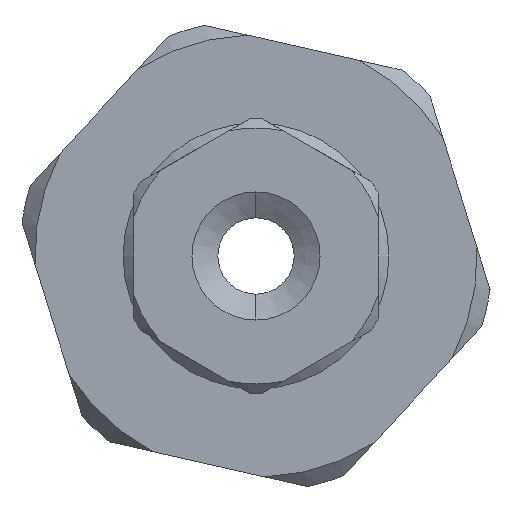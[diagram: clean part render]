
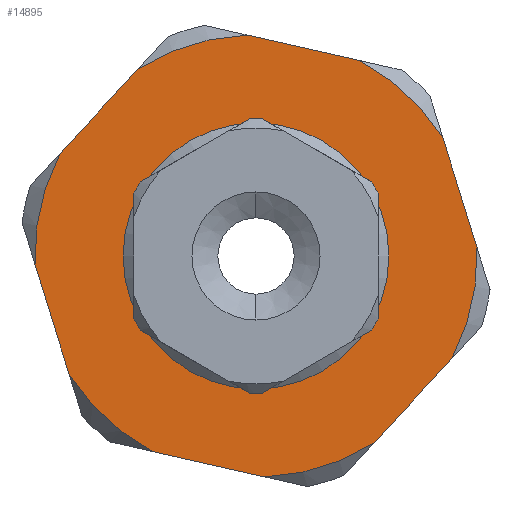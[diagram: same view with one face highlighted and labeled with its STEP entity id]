
A CAD part, front view. The second image highlights one B-rep face of the part: STEP entity #14895.
In plain terms, the highlighted planar face has unit normal (0, -1, 0).
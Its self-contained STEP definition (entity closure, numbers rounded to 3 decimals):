
#7 = EDGE_CURVE ( 'NONE', #3101, #10937, #11957, .T. ) ;
#39 = ORIENTED_EDGE ( 'NONE', *, *, #14182, .F. ) ;
#60 = EDGE_CURVE ( 'NONE', #686, #11112, #2078, .T. ) ;
#198 = EDGE_CURVE ( 'NONE', #1966, #5358, #2064, .T. ) ;
#204 = CARTESIAN_POINT ( 'NONE',  ( -5.706, -0.676, 21. ) ) ;
#257 = CARTESIAN_POINT ( 'NONE',  ( -2.317, -0.676, 27.41 ) ) ;
#348 = VERTEX_POINT ( 'NONE', #14284 ) ;
#376 = DIRECTION ( 'NONE',  ( 0.221, 0., 0.975 ) ) ;
#590 = CARTESIAN_POINT ( 'NONE',  ( -5.706, -0.676, 21. ) ) ;
#686 = VERTEX_POINT ( 'NONE', #9144 ) ;
#845 = FACE_OUTER_BOUND ( 'NONE', #4631, .T. ) ;
#969 = VERTEX_POINT ( 'NONE', #1822 ) ;
#1212 = CARTESIAN_POINT ( 'NONE',  ( -14.409, -0.676, 15.795 ) ) ;
#1413 = DIRECTION ( 'NONE',  ( 0.221, 0., 0.975 ) ) ;
#1548 = DIRECTION ( 'NONE',  ( 0.221, 0., 0.975 ) ) ;
#1611 = CARTESIAN_POINT ( 'NONE',  ( -5.706, -0.676, 21. ) ) ;
#1701 = CARTESIAN_POINT ( 'NONE',  ( -5.412, -0.676, 13.756 ) ) ;
#1793 = DIRECTION ( 'NONE',  ( 0.221, 0., 0.975 ) ) ;
#1822 = CARTESIAN_POINT ( 'NONE',  ( -9.094, -0.676, 14.59 ) ) ;
#1945 = EDGE_CURVE ( 'NONE', #8908, #3238, #14006, .T. ) ;
#1966 = VERTEX_POINT ( 'NONE', #257 ) ;
#2064 = CIRCLE ( 'NONE', #5557, 7.25 ) ;
#2078 = CIRCLE ( 'NONE', #11710, 3.5 ) ;
#2127 = DIRECTION ( 'NONE',  ( 0., 1., 0. ) ) ;
#2163 = AXIS2_PLACEMENT_3D ( 'NONE', #204, #8567, #1413 ) ;
#2405 = DIRECTION ( 'NONE',  ( 0.221, 0., 0.975 ) ) ;
#2710 = CARTESIAN_POINT ( 'NONE',  ( -9.562, -0.676, 27.139 ) ) ;
#2753 = CARTESIAN_POINT ( 'NONE',  ( -5.706, -0.676, 21. ) ) ;
#2791 = VECTOR ( 'NONE', #5745, 1000. ) ;
#2811 = DIRECTION ( 'NONE',  ( 0.221, 0., 0.975 ) ) ;
#3095 = VERTEX_POINT ( 'NONE', #7138 ) ;
#3101 = VERTEX_POINT ( 'NONE', #3514 ) ;
#3131 = DIRECTION ( 'NONE',  ( -0.679, 0., -0.734 ) ) ;
#3238 = VERTEX_POINT ( 'NONE', #5050 ) ;
#3277 = EDGE_CURVE ( 'NONE', #10937, #4271, #13218, .T. ) ;
#3386 = LINE ( 'NONE', #8779, #9708 ) ;
#3514 = CARTESIAN_POINT ( 'NONE',  ( 0.715, -0.676, 17.632 ) ) ;
#3690 = LINE ( 'NONE', #13597, #6889 ) ;
#3805 = AXIS2_PLACEMENT_3D ( 'NONE', #590, #8946, #1793 ) ;
#3919 = CIRCLE ( 'NONE', #10405, 7.25 ) ;
#3950 = CARTESIAN_POINT ( 'NONE',  ( -11.833, -0.676, 17.124 ) ) ;
#4271 = VERTEX_POINT ( 'NONE', #1701 ) ;
#4397 = FACE_BOUND ( 'NONE', #13624, .T. ) ;
#4605 = ORIENTED_EDGE ( 'NONE', *, *, #10921, .F. ) ;
#4631 = EDGE_LOOP ( 'NONE', ( #10716, #5145, #15204, #5208, #4605, #9981, #12088, #5395, #10634, #6940, #11120, #39 ) ) ;
#4678 = CARTESIAN_POINT ( 'NONE',  ( -13.377, -0.676, 22.104 ) ) ;
#4766 = AXIS2_PLACEMENT_3D ( 'NONE', #12110, #5010, #13301 ) ;
#5010 = DIRECTION ( 'NONE',  ( 0., 1., 0. ) ) ;
#5050 = CARTESIAN_POINT ( 'NONE',  ( -12.126, -0.676, 24.368 ) ) ;
#5145 = ORIENTED_EDGE ( 'NONE', *, *, #11964, .F. ) ;
#5208 = ORIENTED_EDGE ( 'NONE', *, *, #7, .F. ) ;
#5290 = DIRECTION ( 'NONE',  ( 0.296, 0., -0.955 ) ) ;
#5358 = VERTEX_POINT ( 'NONE', #9499 ) ;
#5395 = ORIENTED_EDGE ( 'NONE', *, *, #6626, .F. ) ;
#5557 = AXIS2_PLACEMENT_3D ( 'NONE', #12367, #14774, #8891 ) ;
#5651 = VECTOR ( 'NONE', #3131, 1000. ) ;
#5688 = CARTESIAN_POINT ( 'NONE',  ( -4.158, -0.676, 27.827 ) ) ;
#5745 = DIRECTION ( 'NONE',  ( -0.975, 0., 0.221 ) ) ;
#5891 = DIRECTION ( 'NONE',  ( -0.296, 0., 0.955 ) ) ;
#6440 = CIRCLE ( 'NONE', #12996, 7.25 ) ;
#6626 = EDGE_CURVE ( 'NONE', #348, #1966, #11323, .T. ) ;
#6728 = EDGE_CURVE ( 'NONE', #969, #9884, #8381, .T. ) ;
#6889 = VECTOR ( 'NONE', #5290, 1000. ) ;
#6940 = ORIENTED_EDGE ( 'NONE', *, *, #14447, .F. ) ;
#7138 = CARTESIAN_POINT ( 'NONE',  ( 1.539, -0.676, 21.27 ) ) ;
#7562 = DIRECTION ( 'NONE',  ( 0., 1., 0. ) ) ;
#7728 = LINE ( 'NONE', #4678, #10468 ) ;
#8039 = CARTESIAN_POINT ( 'NONE',  ( -12.951, -0.676, 20.73 ) ) ;
#8316 = PLANE ( 'NONE',  #11576 ) ;
#8381 = CIRCLE ( 'NONE', #4766, 7.25 ) ;
#8567 = DIRECTION ( 'NONE',  ( 0., 1., 0. ) ) ;
#8689 = DIRECTION ( 'NONE',  ( 0., -1., 0. ) ) ;
#8707 = VERTEX_POINT ( 'NONE', #2710 ) ;
#8779 = CARTESIAN_POINT ( 'NONE',  ( -8.585, -0.676, 28.195 ) ) ;
#8891 = DIRECTION ( 'NONE',  ( 0.221, 0., 0.975 ) ) ;
#8908 = VERTEX_POINT ( 'NONE', #8039 ) ;
#8946 = DIRECTION ( 'NONE',  ( 0., -1., 0. ) ) ;
#9144 = CARTESIAN_POINT ( 'NONE',  ( -6.479, -0.676, 17.587 ) ) ;
#9270 = CARTESIAN_POINT ( 'NONE',  ( -5.706, -0.676, 21. ) ) ;
#9499 = CARTESIAN_POINT ( 'NONE',  ( 0.421, -0.676, 24.876 ) ) ;
#9531 = DIRECTION ( 'NONE',  ( 0., 1., 0. ) ) ;
#9606 = EDGE_CURVE ( 'NONE', #5358, #3095, #3690, .T. ) ;
#9708 = VECTOR ( 'NONE', #11079, 1000. ) ;
#9884 = VERTEX_POINT ( 'NONE', #3950 ) ;
#9931 = DIRECTION ( 'NONE',  ( 0., 1., 0. ) ) ;
#9981 = ORIENTED_EDGE ( 'NONE', *, *, #9606, .F. ) ;
#10271 = ORIENTED_EDGE ( 'NONE', *, *, #13909, .F. ) ;
#10405 = AXIS2_PLACEMENT_3D ( 'NONE', #1611, #9931, #2811 ) ;
#10442 = DIRECTION ( 'NONE',  ( 0.221, 0., 0.975 ) ) ;
#10468 = VECTOR ( 'NONE', #5891, 1000. ) ;
#10480 = CIRCLE ( 'NONE', #3805, 3.5 ) ;
#10634 = ORIENTED_EDGE ( 'NONE', *, *, #11634, .F. ) ;
#10716 = ORIENTED_EDGE ( 'NONE', *, *, #6728, .F. ) ;
#10921 = EDGE_CURVE ( 'NONE', #3095, #3101, #6440, .T. ) ;
#10937 = VERTEX_POINT ( 'NONE', #11640 ) ;
#10944 = VECTOR ( 'NONE', #13988, 1000. ) ;
#11079 = DIRECTION ( 'NONE',  ( 0.679, 0., 0.734 ) ) ;
#11112 = VERTEX_POINT ( 'NONE', #14417 ) ;
#11120 = ORIENTED_EDGE ( 'NONE', *, *, #1945, .F. ) ;
#11323 = LINE ( 'NONE', #5688, #10944 ) ;
#11576 = AXIS2_PLACEMENT_3D ( 'NONE', #1212, #9531, #2405 ) ;
#11634 = EDGE_CURVE ( 'NONE', #8707, #348, #3919, .T. ) ;
#11640 = CARTESIAN_POINT ( 'NONE',  ( -1.849, -0.676, 14.861 ) ) ;
#11710 = AXIS2_PLACEMENT_3D ( 'NONE', #2753, #8689, #1548 ) ;
#11957 = LINE ( 'NONE', #12647, #5651 ) ;
#11964 = EDGE_CURVE ( 'NONE', #4271, #969, #15090, .T. ) ;
#12088 = ORIENTED_EDGE ( 'NONE', *, *, #198, .F. ) ;
#12110 = CARTESIAN_POINT ( 'NONE',  ( -5.706, -0.676, 21. ) ) ;
#12354 = ORIENTED_EDGE ( 'NONE', *, *, #60, .F. ) ;
#12367 = CARTESIAN_POINT ( 'NONE',  ( -5.706, -0.676, 21. ) ) ;
#12647 = CARTESIAN_POINT ( 'NONE',  ( -2.826, -0.676, 13.805 ) ) ;
#12996 = AXIS2_PLACEMENT_3D ( 'NONE', #9270, #2127, #10442 ) ;
#13218 = CIRCLE ( 'NONE', #13999, 7.25 ) ;
#13301 = DIRECTION ( 'NONE',  ( 0.221, 0., 0.975 ) ) ;
#13597 = CARTESIAN_POINT ( 'NONE',  ( 1.965, -0.676, 19.896 ) ) ;
#13624 = EDGE_LOOP ( 'NONE', ( #10271, #12354 ) ) ;
#13909 = EDGE_CURVE ( 'NONE', #11112, #686, #10480, .T. ) ;
#13988 = DIRECTION ( 'NONE',  ( 0.975, 0., -0.221 ) ) ;
#13999 = AXIS2_PLACEMENT_3D ( 'NONE', #14657, #7562, #376 ) ;
#14006 = CIRCLE ( 'NONE', #2163, 7.25 ) ;
#14049 = CARTESIAN_POINT ( 'NONE',  ( -7.253, -0.676, 14.173 ) ) ;
#14182 = EDGE_CURVE ( 'NONE', #9884, #8908, #7728, .T. ) ;
#14284 = CARTESIAN_POINT ( 'NONE',  ( -5.999, -0.676, 28.244 ) ) ;
#14417 = CARTESIAN_POINT ( 'NONE',  ( -4.932, -0.676, 24.413 ) ) ;
#14447 = EDGE_CURVE ( 'NONE', #3238, #8707, #3386, .T. ) ;
#14657 = CARTESIAN_POINT ( 'NONE',  ( -5.706, -0.676, 21. ) ) ;
#14774 = DIRECTION ( 'NONE',  ( 0., 1., 0. ) ) ;
#14895 = ADVANCED_FACE ( 'NONE', ( #4397, #845 ), #8316, .F. ) ;
#15090 = LINE ( 'NONE', #14049, #2791 ) ;
#15204 = ORIENTED_EDGE ( 'NONE', *, *, #3277, .F. ) ;
